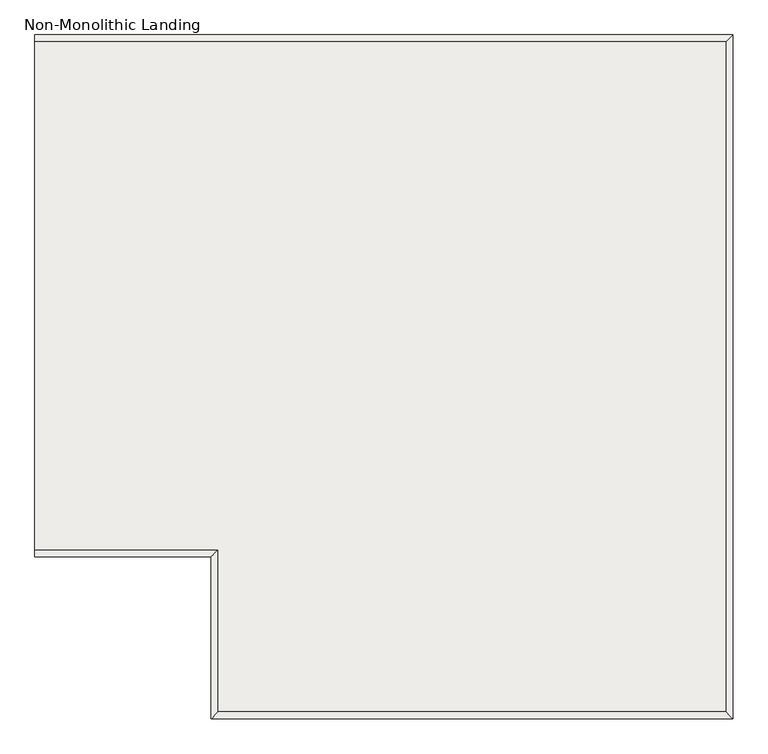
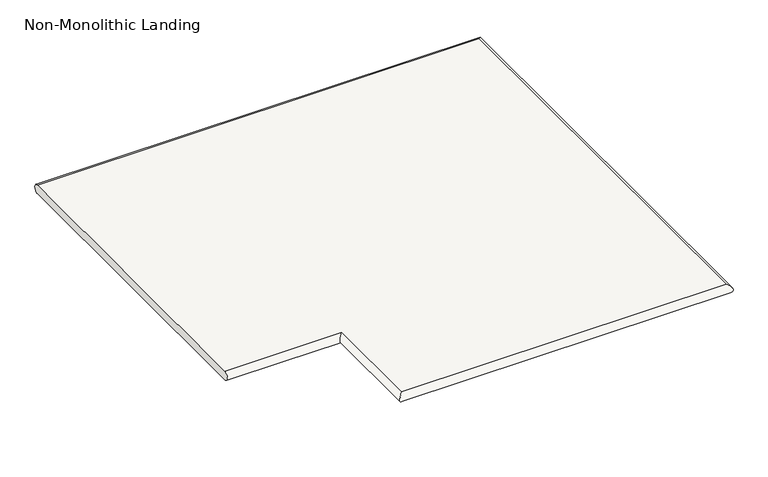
"""IFC4 building model written with IfcOpenShell, lengths in millimetres: slab geometry, Non-Monolithic Landing."""

from ifc_helpers import new_model, si_unit, frame, origin, place, context, project, spatial, circle_curve, ellipse_curve, source, transform, mapped, element, save
from ifc_brep_helpers import plane_surface, cylinder_surface, advanced_brep


def non_monolithic_landing_83a6fe64(model_context):
    return source(origin(), model_context, "Body", "AdvancedBrep", [
        advanced_brep(
        [(7817.7853665, -969.6167382, 1667.9333333), (7817.7853665, -969.6167382, 1693.3333333), (6903.3853665, -969.6167382, 1693.3333333), (6903.3853665, -969.6167382, 1667.9333333), (6573.1853665, 236.8832618, 1693.3333333), (6573.1853665, -677.5167382, 1693.3333333), (6598.5853665, -677.5167382, 1693.3333333), (6903.3853665, -677.5167382, 1693.3333333), (7817.7853665, 236.8832618, 1693.3333333), (6598.5853665, 236.8832618, 1693.3333333), (6573.1853665, -677.5167382, 1667.9333333), (6573.1853665, 236.8832618, 1667.9333333), (6598.5853665, 236.8832618, 1667.9333333), (7817.7853665, 236.8832618, 1667.9333333), (6903.3853665, -677.5167382, 1667.9333333), (6598.5853665, -677.5167382, 1667.9333333)],
        [
            (0, 1, ellipse_curve(frame((7817.7853665, -969.6167382, 1680.6333333), z_axis=(-0.7071067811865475, -0.7071067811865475, 0.0), x_axis=(0.7071067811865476, -0.7071067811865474, 0.0)), 17.9605122, 12.7)),
            (1, 2),
            (2, 3, ellipse_curve(frame((6903.3853665, -969.6167382, 1680.6333333), z_axis=(0.7071067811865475, -0.7071067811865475, 0.0), x_axis=(0.7071067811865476, 0.7071067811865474, 0.0)), 17.9605122, 12.7)),
            (3, 0),
            (4, 5),
            (5, 6),
            (6, 7),
            (7, 2),
            (1, 8),
            (8, 9),
            (9, 4),
            (10, 11),
            (11, 12),
            (12, 13),
            (13, 0),
            (3, 14),
            (14, 15),
            (15, 10),
            (4, 11, circle_curve(frame((6573.1853665, 236.8832618, 1680.6333333), z_axis=(-1.0, 0.0, 0.0), x_axis=(0.0, -1.0, 0.0)), 12.7)),
            (10, 5, circle_curve(frame((6573.1853665, -677.5167382, 1680.6333333), z_axis=(-1.0, 0.0, 0.0), x_axis=(0.0, 1.0, 0.0)), 12.7)),
            (8, 13, ellipse_curve(frame((7817.7853665, 236.8832618, 1680.6333333), z_axis=(-0.7071067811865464, 0.7071067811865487, 0.0), x_axis=(-0.7071067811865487, -0.7071067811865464, 0.0)), 17.9605122, 12.7)),
            (7, 14, ellipse_curve(frame((6903.3853665, -677.5167382, 1680.6333333), z_axis=(0.7071067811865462, -0.7071067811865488, 0.0), x_axis=(-0.7071067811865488, -0.7071067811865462, 0.0)), 17.9605122, 12.7)),
        ],
        [
            cylinder_surface(frame((7817.7853665, -969.6167382, 1680.6333333), z_axis=(1.0, 0.0, 0.0), x_axis=(0.0, 1.0, 0.0)), 12.7),
            plane_surface(frame((6903.3853665, -969.6167382, 1693.3333333), z_axis=(0.0, 0.0, 1.0), x_axis=(1.0, 0.0, 0.0))),
            plane_surface(frame((6903.3853665, -969.6167382, 1667.9333333), z_axis=(0.0, 0.0, -1.0), x_axis=(-1.0, 0.0, 0.0))),
            plane_surface(frame((6573.1853665, 236.8832618, 1693.3333333), z_axis=(-1.0, 0.0, 0.0), x_axis=(0.0, 0.0, -1.0))),
            cylinder_surface(frame((6573.1853665, 236.8832618, 1680.6333333), z_axis=(-1.0, 0.0, 0.0), x_axis=(0.0, -1.0, 0.0)), 12.7),
            cylinder_surface(frame((7817.7853665, 236.8832618, 1680.6333333), z_axis=(0.0, 1.0, 0.0), x_axis=(-1.0, 0.0, 0.0)), 12.7),
            cylinder_surface(frame((6903.3853665, -969.6167382, 1680.6333333), z_axis=(0.0, -1.0, 0.0), x_axis=(1.0, 0.0, 0.0)), 12.7),
            cylinder_surface(frame((6903.3853665, -677.5167382, 1680.6333333), z_axis=(1.0, 0.0, 0.0), x_axis=(0.0, 1.0, 0.0)), 12.7),
        ],
        [
            (0, [[1, 2, 3, 4]]),
            (1, [[5, 6, 7, 8, -2, 9, 10, 11]]),
            (2, [[12, 13, 14, 15, -4, 16, 17, 18]]),
            (3, [[-5, 19, -12, 20]]),
            (4, [[-19, -11, -10, 21, -14, -13]]),
            (5, [[-21, -9, -1, -15]]),
            (6, [[-3, -8, 22, -16]]),
            (7, [[-22, -7, -6, -20, -18, -17]]),
        ],
    ),
    ])


if __name__ == "__main__":
    model = new_model("IFC4")
    model_context = context("Model", 3, world=origin())
    ifc_project = project(units=[si_unit("LENGTHUNIT", "METRE", prefix="MILLI")], contexts=[model_context])
    site = spatial("IfcSite", under=ifc_project)
    building = spatial("IfcBuilding", under=site)
    placement = place(None, origin())
    non_monolithic_landing_shape = non_monolithic_landing_83a6fe64(model_context)
    element("IfcSlab", 1, ObjectType="Non-Monolithic Landing", at=placement, inside=building, context=model_context, shape_type="MappedRepresentation", body=[
        mapped(non_monolithic_landing_shape, transform((0.0, 0.0, 0.0), x_axis=(1.0, 0.0, 0.0), y_axis=(0.0, 1.0, 0.0), z_axis=(0.0, 0.0, 1.0))),
    ])
    save(model, "model.ifc")
